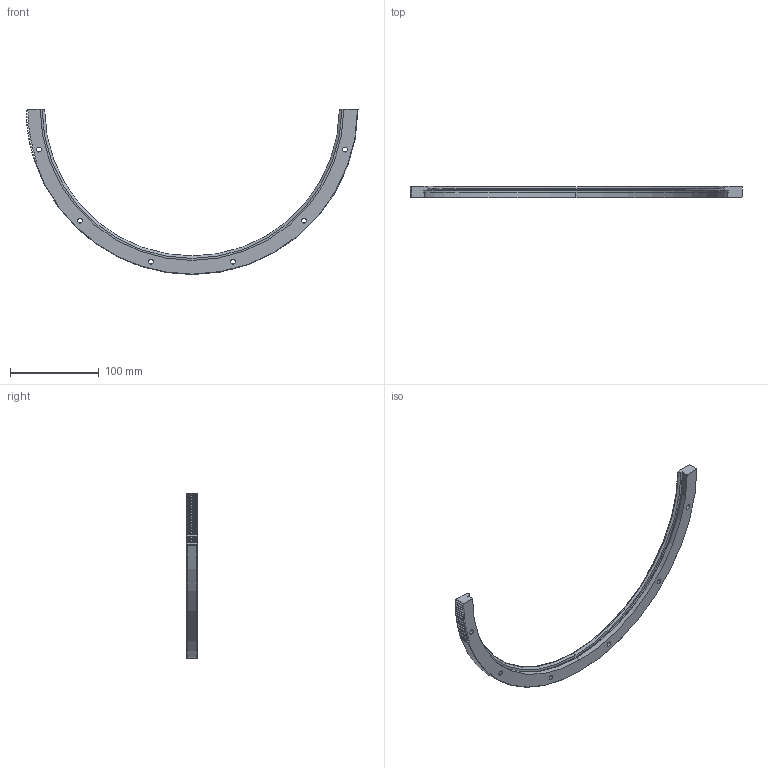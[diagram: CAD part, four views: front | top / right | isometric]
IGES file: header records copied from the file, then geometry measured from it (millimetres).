
Start section: 3D InterOp IGES (v. 2020 1.0.1), Spatial Corp. Copyright (c) 1999-2017.
Global section: file name: ris_374_r180_p.igs; native system: Spatial Corp.; preprocessor: 3D InterOp ACIS/IGES; author: TraceParts; organization: TraceParts S.A.; date: 20220624.062209; units: millimetre
Bounding box: 373.98 x 12.25 x 186 mm (x, y, z)
Surface area: 38148.3 mm2 (no closed solid volume)
Topology: 0 solids, 0 shells, 190 faces, 1082 edges, 1082 vertices
Faces by surface type: extrusion 110, revolution 80
